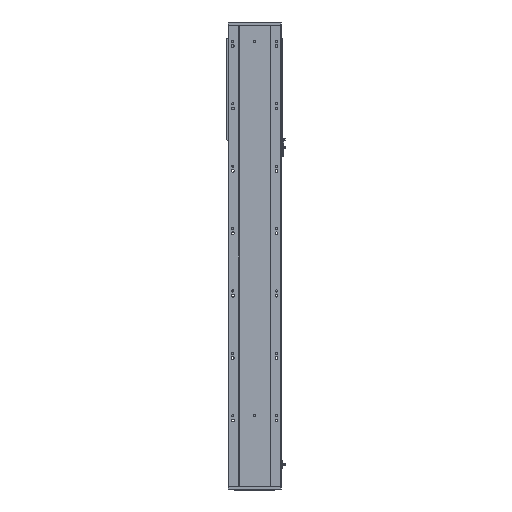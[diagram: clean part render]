
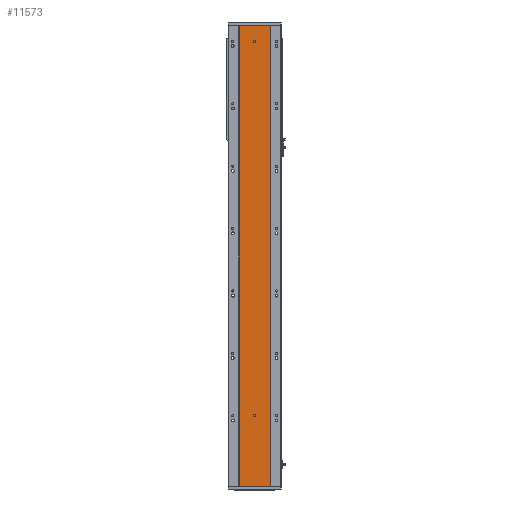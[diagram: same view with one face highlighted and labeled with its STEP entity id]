
A CAD part, front view. The second image highlights one B-rep face of the part: STEP entity #11573.
In plain terms, the highlighted planar face has unit normal (0, -1, 0).
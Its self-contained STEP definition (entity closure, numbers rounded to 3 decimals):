
#2586 = B_SPLINE_CURVE_WITH_KNOTS ( 'NONE', 3,
 ( #42561, #42532, #42539, #42543 ),
 .UNSPECIFIED., .F., .F.,
 ( 4, 4 ),
 ( 0., 1. ),
 .UNSPECIFIED. ) ;
#2591 = B_SPLINE_CURVE_WITH_KNOTS ( 'NONE', 3,
 ( #43432, #43482, #43491, #43469 ),
 .UNSPECIFIED., .F., .F.,
 ( 4, 4 ),
 ( 0., 1. ),
 .UNSPECIFIED. ) ;
#11573 = ADVANCED_FACE ( 'NONE', ( #77608, #77621, #77626 ), #78790, .F. ) ;
#14496 = CARTESIAN_POINT ( 'NONE',  ( 86.97, 79.476, 0. ) ) ;
#14552 = CARTESIAN_POINT ( 'NONE',  ( 185.97, 79.476, 1476. ) ) ;
#14578 = CARTESIAN_POINT ( 'NONE',  ( 185.97, 79.476, 0. ) ) ;
#14645 = CARTESIAN_POINT ( 'NONE',  ( 86.97, 79.476, 1476. ) ) ;
#24243 = CIRCLE ( 'NONE', #80867, 4. ) ;
#24297 = CIRCLE ( 'NONE', #80852, 4. ) ;
#26739 = CARTESIAN_POINT ( 'NONE',  ( 136.47, 79.476, 1426. ) ) ;
#26772 = DIRECTION ( 'NONE',  ( 0., -1., 0. ) ) ;
#26790 = DIRECTION ( 'NONE',  ( 0., 0., -1. ) ) ;
#26799 = DIRECTION ( 'NONE',  ( 0., -1., 0. ) ) ;
#26822 = DIRECTION ( 'NONE',  ( 0., 0., -1. ) ) ;
#26825 = CARTESIAN_POINT ( 'NONE',  ( 136.47, 79.476, 226. ) ) ;
#34805 = VERTEX_POINT ( 'NONE', #14496 ) ;
#34876 = VERTEX_POINT ( 'NONE', #14552 ) ;
#34899 = VERTEX_POINT ( 'NONE', #14578 ) ;
#34925 = VERTEX_POINT ( 'NONE', #14645 ) ;
#39376 = EDGE_CURVE ( 'NONE', #51260, #51286, #24297, .T. ) ;
#39404 = EDGE_CURVE ( 'NONE', #51262, #51218, #24243, .T. ) ;
#40974 = LINE ( 'NONE', #42376, #40984 ) ;
#40984 = VECTOR ( 'NONE', #42481, 1000. ) ;
#41035 = CIRCLE ( 'NONE', #69249, 4. ) ;
#41037 = LINE ( 'NONE', #43426, #41039 ) ;
#41039 = VECTOR ( 'NONE', #43451, 1000. ) ;
#41169 = CIRCLE ( 'NONE', #79560, 4. ) ;
#42376 = CARTESIAN_POINT ( 'NONE',  ( 0., 79.476, 1476. ) ) ;
#42481 = DIRECTION ( 'NONE',  ( 1., 0., 0. ) ) ;
#42532 = CARTESIAN_POINT ( 'NONE',  ( 185.97, 79.476, 984. ) ) ;
#42539 = CARTESIAN_POINT ( 'NONE',  ( 185.97, 79.476, 492. ) ) ;
#42543 = CARTESIAN_POINT ( 'NONE',  ( 185.97, 79.476, 0. ) ) ;
#42561 = CARTESIAN_POINT ( 'NONE',  ( 185.97, 79.476, 1476. ) ) ;
#43426 = CARTESIAN_POINT ( 'NONE',  ( 0., 79.476, 0. ) ) ;
#43428 = CARTESIAN_POINT ( 'NONE',  ( 136.47, 79.476, 226. ) ) ;
#43429 = DIRECTION ( 'NONE',  ( 0., 0., -1. ) ) ;
#43432 = CARTESIAN_POINT ( 'NONE',  ( 86.97, 79.476, 1476. ) ) ;
#43443 = DIRECTION ( 'NONE',  ( 0., -1., 0. ) ) ;
#43451 = DIRECTION ( 'NONE',  ( 1., 0., 0. ) ) ;
#43469 = CARTESIAN_POINT ( 'NONE',  ( 86.97, 79.476, 0. ) ) ;
#43482 = CARTESIAN_POINT ( 'NONE',  ( 86.97, 79.476, 984. ) ) ;
#43491 = CARTESIAN_POINT ( 'NONE',  ( 86.97, 79.476, 492. ) ) ;
#43663 = DIRECTION ( 'NONE',  ( 0., -1., 0. ) ) ;
#43688 = CARTESIAN_POINT ( 'NONE',  ( 136.47, 79.476, 1426. ) ) ;
#43690 = DIRECTION ( 'NONE',  ( 0., 0., -1. ) ) ;
#47414 = EDGE_CURVE ( 'NONE', #34925, #34876, #40974, .T. ) ;
#47465 = EDGE_CURVE ( 'NONE', #34876, #34899, #2586, .T. ) ;
#47478 = EDGE_CURVE ( 'NONE', #51218, #51262, #41035, .T. ) ;
#47498 = EDGE_CURVE ( 'NONE', #34805, #34899, #41037, .T. ) ;
#47534 = EDGE_CURVE ( 'NONE', #34925, #34805, #2591, .T. ) ;
#47624 = EDGE_CURVE ( 'NONE', #51286, #51260, #41169, .T. ) ;
#51218 = VERTEX_POINT ( 'NONE', #58238 ) ;
#51260 = VERTEX_POINT ( 'NONE', #58228 ) ;
#51262 = VERTEX_POINT ( 'NONE', #58233 ) ;
#51286 = VERTEX_POINT ( 'NONE', #58208 ) ;
#58208 = CARTESIAN_POINT ( 'NONE',  ( 136.47, 79.476, 1422. ) ) ;
#58228 = CARTESIAN_POINT ( 'NONE',  ( 136.47, 79.476, 1430. ) ) ;
#58233 = CARTESIAN_POINT ( 'NONE',  ( 136.47, 79.476, 230. ) ) ;
#58238 = CARTESIAN_POINT ( 'NONE',  ( 136.47, 79.476, 222. ) ) ;
#64674 = ORIENTED_EDGE ( 'NONE', *, *, #47414, .F. ) ;
#64688 = ORIENTED_EDGE ( 'NONE', *, *, #47624, .F. ) ;
#64689 = ORIENTED_EDGE ( 'NONE', *, *, #47498, .T. ) ;
#64690 = ORIENTED_EDGE ( 'NONE', *, *, #39404, .F. ) ;
#64694 = ORIENTED_EDGE ( 'NONE', *, *, #47534, .T. ) ;
#64706 = ORIENTED_EDGE ( 'NONE', *, *, #47465, .F. ) ;
#64765 = ORIENTED_EDGE ( 'NONE', *, *, #39376, .F. ) ;
#64767 = ORIENTED_EDGE ( 'NONE', *, *, #47478, .F. ) ;
#66849 = EDGE_LOOP ( 'NONE', ( #64688, #64765 ) ) ;
#66918 = EDGE_LOOP ( 'NONE', ( #64689, #64706, #64674, #64694 ) ) ;
#66957 = EDGE_LOOP ( 'NONE', ( #64767, #64690 ) ) ;
#69249 = AXIS2_PLACEMENT_3D ( 'NONE', #43428, #43443, #43429 ) ;
#71592 = AXIS2_PLACEMENT_3D ( 'NONE', #78793, #78795, #78765 ) ;
#77608 = FACE_BOUND ( 'NONE', #66849, .T. ) ;
#77621 = FACE_BOUND ( 'NONE', #66957, .T. ) ;
#77626 = FACE_OUTER_BOUND ( 'NONE', #66918, .T. ) ;
#78765 = DIRECTION ( 'NONE',  ( 0., 0., 1. ) ) ;
#78790 = PLANE ( 'NONE',  #71592 ) ;
#78793 = CARTESIAN_POINT ( 'NONE',  ( 0., 79.476, 1476. ) ) ;
#78795 = DIRECTION ( 'NONE',  ( 0., 1., 0. ) ) ;
#79560 = AXIS2_PLACEMENT_3D ( 'NONE', #43688, #43663, #43690 ) ;
#80852 = AXIS2_PLACEMENT_3D ( 'NONE', #26739, #26772, #26790 ) ;
#80867 = AXIS2_PLACEMENT_3D ( 'NONE', #26825, #26799, #26822 ) ;
